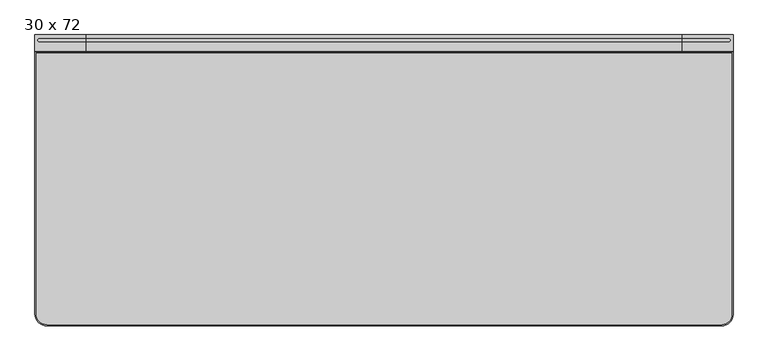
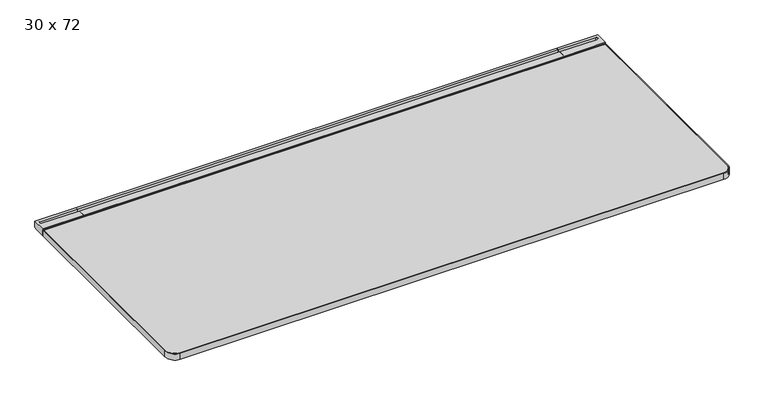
"""IFC4 building model written with IfcOpenShell, lengths in millimetres: furniture geometry, Steelcase - C Scape - Desking - Straight : 30 x 72."""

from ifc_helpers import new_model, si_unit, point, frame, frame_2d, origin, place, context, project, spatial, polyline, circle_curve, trimmed, segment, composite_curve, outline, extrude, faceted_brep, source, transform, mapped, element, save
from ifc_brep_helpers import plane_surface, cylinder_surface, revolved_surface, advanced_brep


def furniture_30_x_72_10772063(model_context):
    return source(origin(), model_context, "Body", "SolidModel", [
        advanced_brep(
        [(1694.2562243, -45.3135132, 703.3768), (1694.2562243, -45.3135132, 722.4268341), (1694.2562243, -42.7750923, 722.4268341), (1694.2562243, -42.7750923, 725.932), (1694.2562243, -19.3290527, 725.932), (1694.2562243, -19.3290527, 713.486), (1694.2562243, -8.5111084, 713.486), (1694.2562243, -8.5111084, 725.932), (1694.2562243, 0.0, 725.932), (1694.2562243, 0.0, 705.1038636), (1694.2562243, -3.2278472, 705.1038636), (1694.2562243, -4.0331902, 703.3768), (1827.2760119, -45.3135132, 703.3768), (1827.2760119, -4.0331902, 703.3768), (1827.2760119, -3.2278472, 705.1038636), (1827.2760119, 0.0, 705.1038636), (1827.2760119, 0.0, 725.932), (1827.2760119, -42.7750923, 725.932), (1827.2760119, -42.7750923, 722.4268341), (1827.2760119, -45.3135132, 722.4268341), (1815.5139392, -8.5111084, 725.932), (1815.5139392, -19.3290527, 725.932), (1815.5139392, -19.3290527, 713.486), (1815.5139392, -8.5111084, 713.486)],
        [
            (0, 1),
            (1, 2),
            (2, 3),
            (3, 4),
            (4, 5),
            (5, 6),
            (6, 7),
            (7, 8),
            (8, 9),
            (9, 10),
            (10, 11),
            (11, 0),
            (12, 13),
            (13, 14),
            (14, 15),
            (15, 16),
            (16, 17),
            (17, 18),
            (18, 19),
            (19, 12),
            (11, 13),
            (12, 0),
            (10, 14),
            (9, 15),
            (8, 16),
            (7, 20),
            (20, 21, circle_curve(frame((1815.5139392, -13.9200806, 725.932), z_axis=(0.0, 0.0, -1.0), x_axis=(-1.0, 0.0, 0.0)), 5.4089722)),
            (21, 4),
            (3, 17),
            (2, 18),
            (1, 19),
            (5, 22),
            (22, 23, circle_curve(frame((1815.5139392, -13.9200806, 713.486), z_axis=(0.0, 0.0, 1.0), x_axis=(-1.0, 0.0, 0.0)), 5.4089722)),
            (23, 6),
            (23, 20),
            (22, 21),
        ],
        [
            plane_surface(frame((1694.2562243, -45.3135132, 703.3768), z_axis=(-1.0, 0.0, 0.0), x_axis=(0.0, 1.0, 0.0))),
            plane_surface(frame((1827.2760119, -45.3135132, 703.3768), z_axis=(1.0, 0.0, 0.0), x_axis=(0.0, -1.0, 0.0))),
            plane_surface(frame((1694.2562243, -45.3135132, 703.3768), z_axis=(0.0, 0.0, -1.0), x_axis=(1.0, 0.0, 0.0))),
            plane_surface(frame((1694.2562243, -4.0331902, 703.3768), z_axis=(0.0, 0.9063077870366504, -0.4226182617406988), x_axis=(1.0, 0.0, 0.0))),
            plane_surface(frame((1694.2562243, -3.2278472, 705.1038636), z_axis=(0.0, 0.0, -1.0), x_axis=(1.0, 0.0, 0.0))),
            plane_surface(frame((1694.2562243, 0.0, 705.1038636), z_axis=(0.0, 1.0, 0.0), x_axis=(1.0, 0.0, 0.0))),
            plane_surface(frame((1694.2562243, 0.0, 725.932), z_axis=(0.0, 0.0, 1.0), x_axis=(1.0, 0.0, 0.0))),
            plane_surface(frame((1694.2562243, -42.7750923, 725.932), z_axis=(0.0, -1.0, 0.0), x_axis=(1.0, 0.0, 0.0))),
            plane_surface(frame((1694.2562243, -42.7750923, 722.4268341), z_axis=(0.0, 0.0, 1.0), x_axis=(1.0, 0.0, 0.0))),
            plane_surface(frame((1694.2562243, -45.3135132, 722.4268341), z_axis=(0.0, -1.0, 0.0), x_axis=(1.0, 0.0, 0.0))),
            plane_surface(frame((1815.5139392, -8.5111084, 713.486), z_axis=(0.0, 0.0, 1.0), x_axis=(-1.0, 0.0, 0.0))),
            plane_surface(frame((1694.2562243, -8.5111084, 731.2180541), z_axis=(0.0, -1.0, 0.0), x_axis=(0.0, 0.0, -1.0))),
            revolved_surface(polyline([(1810.104967, -13.9200806, 725.932), (1810.104967, -13.9200806, 713.486)]), (1815.5139392, -13.9200806, 713.486), (0.0, 0.0, 1.0)),
            plane_surface(frame((1815.5139392, -19.3290527, 731.2180541), z_axis=(0.0, 1.0, 0.0), x_axis=(0.0, 0.0, -1.0))),
        ],
        [
            (0, [[1, 2, 3, 4, 5, 6, 7, 8, 9, 10, 11, 12]]),
            (1, [[13, 14, 15, 16, 17, 18, 19, 20]]),
            (2, [[21, -13, 22, -12]]),
            (3, [[23, -14, -21, -11]]),
            (4, [[24, -15, -23, -10]]),
            (5, [[25, -16, -24, -9]]),
            (6, [[-25, -8, 26, 27, 28, -4, 29, -17]]),
            (7, [[30, -18, -29, -3]]),
            (8, [[31, -19, -30, -2]]),
            (9, [[-22, -20, -31, -1]]),
            (10, [[-6, 32, 33, 34]]),
            (11, [[35, -26, -7, -34]]),
            (12, [[36, -27, -35, -33]]),
            (13, [[-5, -28, -36, -32]]),
        ],
    ),
        faceted_brep([(1808.2252487, -565.0752923, 700.7093833), (1808.2252487, -565.0752923, 703.3768), (1694.2562243, -565.0752923, 703.3768), (1694.2562243, -565.0752923, 679.3263935), (1709.8903818, -565.0752923, 679.3263935), (1712.510924, -565.0752923, 693.4200291), (1793.9501391, -565.0752923, 693.4200291), (1808.2252487, -4.0331902, 700.7093833), (1793.9501391, -4.0331902, 693.4200291), (1712.510924, -4.0331902, 693.4200291), (1700.6046772, -4.0331902, 629.3866), (1694.2562243, -4.0331902, 629.3866), (1694.2562243, -4.0331902, 703.3768), (1808.2252487, -4.0331902, 703.3768), (1707.7251068, -376.5599397, 667.6812472), (1700.6046772, -364.1172546, 629.3866), (1694.2562243, -364.1172546, 629.3866), (1694.2562243, -376.5599397, 667.6812472)], [[[0, 1, 2, 3, 4, 5, 6]], [[7, 8, 9, 10, 11, 12, 13]], [[6, 8, 7, 0]], [[5, 9, 8, 6]], [[9, 5, 4, 14, 15, 10]], [[10, 15, 16, 11]], [[11, 16, 17, 3, 2, 12]], [[1, 13, 12, 2]], [[0, 7, 13, 1]], [[14, 4, 3, 17]], [[17, 16, 15, 14]]]),
        extrude(outline(composite_curve([segment(polyline([(-293.5216187, 657.3775839), (-559.0022133, 680.1371551)]), True, "CONTINUOUS"), segment(trimmed(circle_curve(frame_2d((-558.7581271, 682.9843154)), 2.8576039), [point((-559.0022133, 680.1371551))], [point((-561.5383043, 682.3236226))], False, "CARTESIAN"), True, "CONTINUOUS"), segment(polyline([(-561.5383043, 682.3236226), (-566.0887542, 701.4717905), (-557.8334441, 701.4717905), (-557.8334441, 703.3768), (-442.6683806, 703.3768), (-442.6683806, 696.3917953), (-318.2108611, 696.3917953), (-318.2108611, 703.3768), (-293.5216187, 703.3768), (-293.5216187, 657.3775839)]), True, "CONTINUOUS")], self_intersect=False)), frame((877.824, 0.0, 0.0), z_axis=(1.0, 0.0, 0.0), x_axis=(0.0, 1.0, 0.0)), (0.0, 0.0, 1.0), 73.152),
        advanced_brep(
        [(134.6072876, -45.3135132, 703.3768), (134.6072876, -4.0331902, 703.3768), (134.6072876, -3.2278472, 705.1038636), (134.6072876, 0.0, 705.1038636), (134.6072876, 0.0, 725.932), (134.6072876, -8.5111084, 725.932), (134.6072876, -8.5111084, 713.486), (134.6072876, -19.3290527, 713.486), (134.6072876, -19.3290527, 725.932), (134.6072876, -42.7750923, 725.932), (134.6072876, -42.7750923, 722.4268341), (134.6072876, -45.3135132, 722.4268341), (1.5875, -45.3135132, 703.3768), (1.5875, -45.3135132, 722.4268341), (1.5875, -42.7750923, 722.4268341), (1.5875, -42.7750923, 725.932), (1.5875, 0.0, 725.932), (1.5875, 0.0, 705.1038636), (1.5875, -3.2278472, 705.1038636), (1.5875, -4.0331902, 703.3768), (13.3495728, -19.3290527, 725.932), (13.3495728, -8.5111084, 725.932), (13.3495728, -8.5111084, 713.486), (13.3495728, -19.3290527, 713.486)],
        [
            (0, 1),
            (1, 2),
            (2, 3),
            (3, 4),
            (4, 5),
            (5, 6),
            (6, 7),
            (7, 8),
            (8, 9),
            (9, 10),
            (10, 11),
            (11, 0),
            (12, 13),
            (13, 14),
            (14, 15),
            (15, 16),
            (16, 17),
            (17, 18),
            (18, 19),
            (19, 12),
            (0, 12),
            (19, 1),
            (18, 2),
            (17, 3),
            (16, 4),
            (15, 9),
            (8, 20),
            (20, 21, circle_curve(frame((13.3495728, -13.9200806, 725.932), z_axis=(0.0, 0.0, -1.0), x_axis=(1.0, 0.0, 0.0)), 5.4089722)),
            (21, 5),
            (14, 10),
            (13, 11),
            (6, 22),
            (22, 23, circle_curve(frame((13.3495728, -13.9200806, 713.486), z_axis=(0.0, 0.0, 1.0), x_axis=(1.0, 0.0, 0.0)), 5.4089722)),
            (23, 7),
            (21, 22),
            (20, 23),
        ],
        [
            plane_surface(frame((134.6072876, -45.3135132, 703.3768), z_axis=(1.0, 0.0, 0.0), x_axis=(0.0, 1.0, 0.0))),
            plane_surface(frame((1.5875, -45.3135132, 703.3768), z_axis=(-1.0, 0.0, 0.0), x_axis=(0.0, -1.0, 0.0))),
            plane_surface(frame((134.6072876, -45.3135132, 703.3768), z_axis=(0.0, 0.0, -1.0), x_axis=(-1.0, 0.0, 0.0))),
            plane_surface(frame((134.6072876, -4.0331902, 703.3768), z_axis=(0.0, 0.9063077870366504, -0.4226182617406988), x_axis=(-1.0, 0.0, 0.0))),
            plane_surface(frame((134.6072876, -3.2278472, 705.1038636), z_axis=(0.0, 0.0, -1.0), x_axis=(-1.0, 0.0, 0.0))),
            plane_surface(frame((134.6072876, 0.0, 705.1038636), z_axis=(0.0, 1.0, 0.0), x_axis=(-1.0, 0.0, 0.0))),
            plane_surface(frame((134.6072876, 0.0, 725.932), z_axis=(0.0, 0.0, 1.0), x_axis=(-1.0, 0.0, 0.0))),
            plane_surface(frame((134.6072876, -42.7750923, 725.932), z_axis=(0.0, -1.0, 0.0), x_axis=(-1.0, 0.0, 0.0))),
            plane_surface(frame((134.6072876, -42.7750923, 722.4268341), z_axis=(0.0, 0.0, 1.0), x_axis=(-1.0, 0.0, 0.0))),
            plane_surface(frame((134.6072876, -45.3135132, 722.4268341), z_axis=(0.0, -1.0, 0.0), x_axis=(-1.0, 0.0, 0.0))),
            plane_surface(frame((13.3495728, -8.5111084, 713.486), z_axis=(0.0, 0.0, 1.0), x_axis=(1.0, 0.0, 0.0))),
            plane_surface(frame((134.6072876, -8.5111084, 731.2180541), z_axis=(0.0, -1.0, 0.0), x_axis=(0.0, 0.0, -1.0))),
            revolved_surface(polyline([(18.758545, -13.9200806, 725.932), (18.758545, -13.9200806, 713.486)]), (13.3495728, -13.9200806, 713.486), (0.0, 0.0, 1.0)),
            plane_surface(frame((13.3495728, -19.3290527, 731.2180541), z_axis=(0.0, 1.0, 0.0), x_axis=(0.0, 0.0, -1.0))),
        ],
        [
            (0, [[1, 2, 3, 4, 5, 6, 7, 8, 9, 10, 11, 12]]),
            (1, [[13, 14, 15, 16, 17, 18, 19, 20]]),
            (2, [[-1, 21, -20, 22]]),
            (3, [[-2, -22, -19, 23]]),
            (4, [[-3, -23, -18, 24]]),
            (5, [[-4, -24, -17, 25]]),
            (6, [[-16, 26, -9, 27, 28, 29, -5, -25]]),
            (7, [[-10, -26, -15, 30]]),
            (8, [[-11, -30, -14, 31]]),
            (9, [[-12, -31, -13, -21]]),
            (10, [[32, 33, 34, -7]]),
            (11, [[-32, -6, -29, 35]]),
            (12, [[-33, -35, -28, 36]]),
            (13, [[-34, -36, -27, -8]]),
        ],
    ),
        faceted_brep([(20.6382632, -565.0752923, 700.7093833), (34.9133728, -565.0752923, 693.4200291), (116.3525879, -565.0752923, 693.4200291), (118.9731301, -565.0752923, 679.3263935), (134.6072876, -565.0752923, 679.3263935), (134.6072876, -565.0752923, 703.3768), (20.6382632, -565.0752923, 703.3768), (20.6382632, -4.0331902, 700.7093833), (20.6382632, -4.0331902, 703.3768), (134.6072876, -4.0331902, 703.3768), (134.6072876, -4.0331902, 629.3866), (128.2588347, -4.0331902, 629.3866), (116.3525879, -4.0331902, 693.4200291), (34.9133728, -4.0331902, 693.4200291), (128.2588347, -364.1172546, 629.3866), (121.1384051, -376.5599397, 667.6812472), (134.6072876, -364.1172546, 629.3866), (134.6072876, -376.5599397, 667.6812472)], [[[0, 1, 2, 3, 4, 5, 6]], [[7, 8, 9, 10, 11, 12, 13]], [[1, 0, 7, 13]], [[2, 1, 13, 12]], [[12, 11, 14, 15, 3, 2]], [[11, 10, 16, 14]], [[10, 9, 5, 4, 17, 16]], [[6, 5, 9, 8]], [[0, 6, 8, 7]], [[15, 17, 4, 3]], [[17, 15, 14, 16]]]),
        extrude(outline(polyline([(-8.5111084, 725.932), (0.0, 725.932), (0.0, 705.1038636), (-3.2278472, 705.1038636), (-4.0331902, 703.3768), (-45.3135132, 703.3768), (-45.3135132, 722.4268341), (-42.7750923, 722.4268341), (-42.7750923, 725.932), (-19.3290527, 725.932), (-19.3290527, 713.486), (-8.5111084, 713.486), (-8.5111084, 725.932)])), frame((134.6072876, 0.0, 0.0), z_axis=(1.0, 0.0, 0.0), x_axis=(0.0, 1.0, 0.0)), (0.0, 0.0, 1.0), 1559.6489367),
        extrude(outline(polyline([(134.6072876, -293.5216187), (134.6072876, -4.0331902), (1694.2562243, -4.0331902), (1694.2562243, -293.5216187), (134.6072876, -293.5216187)])), frame((0.0, 0.0, 629.3866), z_axis=(0.0, 0.0, 1.0), x_axis=(1.0, 0.0, 0.0)), (0.0, 0.0, 1.0), 73.9902),
        advanced_brep(
        [(4.6355, -48.3660689, 723.9), (4.6355, -730.25, 723.9), (33.3375, -758.9490234, 723.9), (1797.4737019, -758.9490234, 723.9), (1824.2273608, -732.1953645, 723.9), (1824.2273608, -48.3660689, 723.9), (4.6355, -48.3660689, 703.3768), (1824.2273608, -48.3660689, 703.3768), (1824.2273608, -732.1953645, 703.3768), (1797.4737019, -758.9490234, 703.3768), (33.3375, -758.9490234, 703.3768), (4.6384766, -730.25, 703.3768)],
        [
            (0, 1),
            (1, 2, circle_curve(frame((33.3375, -730.25, 723.9), z_axis=(0.0, 0.0, 1.0), x_axis=(1.0, 0.0, 0.0)), 28.6990234)),
            (2, 3),
            (3, 4, circle_curve(frame((1797.4737019, -732.1953645, 723.9), z_axis=(0.0, 0.0, 1.0), x_axis=(1.0, 0.0, 0.0)), 26.7536589)),
            (4, 5),
            (5, 0),
            (6, 7),
            (7, 8),
            (8, 9, circle_curve(frame((1797.4737019, -732.1953645, 703.3768), z_axis=(0.0, 0.0, -1.0), x_axis=(1.0, 0.0, 0.0)), 26.7536589)),
            (9, 10),
            (10, 11, circle_curve(frame((33.3375, -730.25, 703.3768), z_axis=(0.0, 0.0, -1.0), x_axis=(1.0, 0.0, 0.0)), 28.6990234)),
            (11, 6),
            (0, 6),
            (11, 1),
            (10, 2),
            (9, 3),
            (8, 4),
            (7, 5),
        ],
        [
            plane_surface(frame((4.6355, -48.3660689, 723.9), z_axis=(0.0, 0.0, 1.0), x_axis=(0.0, -1.0, 0.0))),
            plane_surface(frame((4.6355, -48.3660689, 703.3768), z_axis=(0.0, 0.0, -1.0), x_axis=(0.0, 1.0, 0.0))),
            plane_surface(frame((4.6355, -48.3660689, 723.9), z_axis=(-1.0, 0.0, 0.0), x_axis=(0.0, 0.0, -1.0))),
            cylinder_surface(frame((33.3375, -730.25, 703.3768), z_axis=(0.0, 0.0, 1.0), x_axis=(1.0, 0.0, 0.0)), 28.6990234),
            plane_surface(frame((33.3375, -758.9490234, 723.9), z_axis=(0.0, -1.0, 0.0), x_axis=(0.0, 0.0, -1.0))),
            cylinder_surface(frame((1797.4737019, -732.1953645, 703.3768), z_axis=(0.0, 0.0, 1.0), x_axis=(1.0, 0.0, 0.0)), 26.7536589),
            plane_surface(frame((1824.2273608, -732.1953645, 723.9), z_axis=(1.0, 0.0, 0.0), x_axis=(0.0, 0.0, -1.0))),
            plane_surface(frame((1824.2273608, -48.3660689, 723.9), z_axis=(0.0, 1.0, 0.0), x_axis=(0.0, 0.0, -1.0))),
        ],
        [
            (0, [[1, 2, 3, 4, 5, 6]]),
            (1, [[7, 8, 9, 10, 11, 12]]),
            (2, [[-1, 13, -12, 14]]),
            (3, [[-2, -14, -11, 15]]),
            (4, [[-3, -15, -10, 16]]),
            (5, [[-4, -16, -9, 17]]),
            (6, [[-5, -17, -8, 18]]),
            (7, [[-6, -18, -7, -13]]),
        ],
    ),
        extrude(outline(composite_curve([segment(trimmed(circle_curve(frame_2d((33.3375, -730.25)), 31.75), [point((33.3375, -762.0))], [point((1.5875, -730.25))], False, "CARTESIAN"), True, "CONTINUOUS"), segment(polyline([(1.5875, -730.25), (1.5875, -45.3150923), (1827.276, -45.3150923), (1827.276, -732.1250374)]), True, "CONTINUOUS"), segment(trimmed(circle_curve(frame_2d((1797.4010374, -732.1250374)), 29.8749626), [point((1827.276, -732.1250374))], [point((1797.4010374, -762.0))], False, "CARTESIAN"), True, "CONTINUOUS"), segment(polyline([(1797.4010374, -762.0), (33.3375, -762.0)]), True, "CONTINUOUS")], self_intersect=False), holes=[composite_curve([segment(polyline([(1824.2250234, -48.3660689), (4.6384766, -48.3660689), (4.6384766, -730.25)]), True, "CONTINUOUS"), segment(trimmed(circle_curve(frame_2d((33.3375, -730.25)), 28.6990234), [point((4.6384766, -730.25))], [point((33.3375, -758.9490234))], True, "CARTESIAN"), True, "CONTINUOUS"), segment(polyline([(33.3375, -758.9490234), (1797.4010374, -758.9490234)]), True, "CONTINUOUS"), segment(trimmed(circle_curve(frame_2d((1797.4010374, -732.1250374)), 26.8239861), [point((1797.4010374, -758.9490234))], [point((1824.2250234, -732.1250374))], True, "CARTESIAN"), True, "CONTINUOUS"), segment(polyline([(1824.2250234, -732.1250374), (1824.2250234, -48.3660689)]), True, "CONTINUOUS")], self_intersect=False)]), frame((0.0, 0.0, 703.3768), z_axis=(0.0, 0.0, 1.0), x_axis=(1.0, 0.0, 0.0)), (0.0, 0.0, 1.0), 20.5232),
    ])


if __name__ == "__main__":
    model = new_model("IFC4")
    model_context = context("Model", 3, world=origin())
    ifc_project = project(units=[si_unit("LENGTHUNIT", "METRE", prefix="MILLI")], contexts=[model_context])
    site = spatial("IfcSite", under=ifc_project)
    building = spatial("IfcBuilding", under=site)
    placement = place(None, origin())
    furniture_30_x_72_shape = furniture_30_x_72_10772063(model_context)
    element("IfcFurniture", 1, ObjectType="Steelcase - C Scape - Desking - Straight : 30 x 72", at=placement, inside=building, context=model_context, shape_type="MappedRepresentation", body=[
        mapped(furniture_30_x_72_shape, transform((0.0, 0.0, 0.0), x_axis=(1.0, 0.0, 0.0), y_axis=(0.0, 1.0, 0.0), z_axis=(0.0, 0.0, 1.0))),
    ])
    save(model, "model.ifc")
